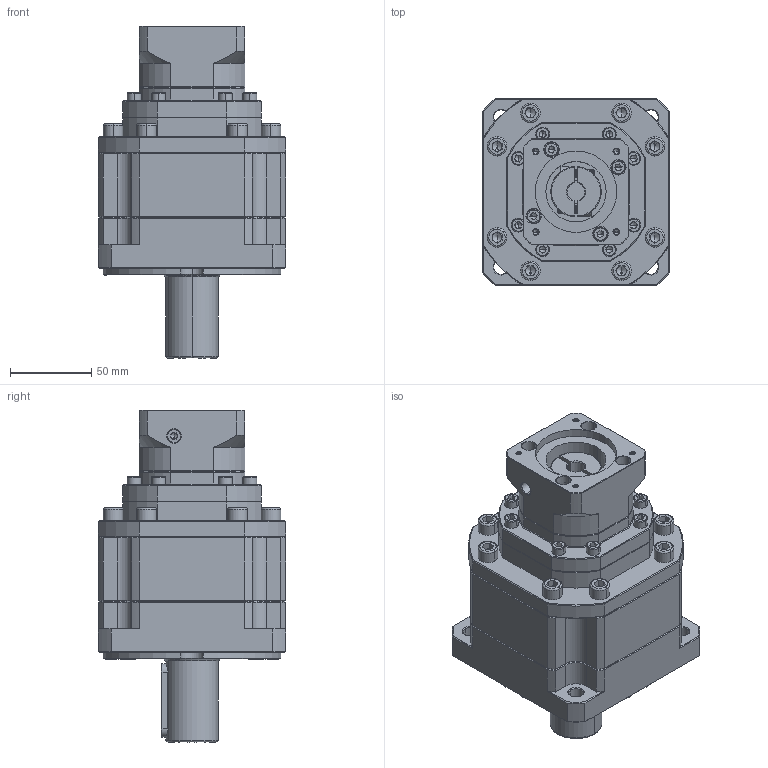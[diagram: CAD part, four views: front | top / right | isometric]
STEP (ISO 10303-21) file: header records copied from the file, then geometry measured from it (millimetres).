
FILE_DESCRIPTION (( 'STEP AP214' ), '1' );
FILE_NAME ('ZB115A-D32-L3-11-50-70-M4.step', '2023-03-03T09:55:25', ( '' ), ( 'Microsoft' ), 'SwSTEP 2.0', 'SolidWorks 2016', '' );
FILE_SCHEMA (( 'AUTOMOTIVE_DESIGN' ));
Length unit declared in the file: millimetre
Products named in the file (1): ZB115A-D32-L3-11-50-70-M4
Bounding box: 115 x 115 x 204 mm (x, y, z)
Volume: 1311013.3 mm3; surface area: 122923.4 mm2
Topology: 7 solids, 7 shells, 2270 faces, 5894 edges, 3733 vertices
Faces by surface type: plane 1126, cylinder 434, bspline 345, cone 343, torus 22
Entity records: 114451 total; most frequent: CARTESIAN_POINT 36799, ORIENTED_EDGE 11664, DIRECTION 9751, EDGE_CURVE 5832, VERTEX_POINT 3733, VECTOR 3633, LINE 3633, AXIS2_PLACEMENT_3D 3059
